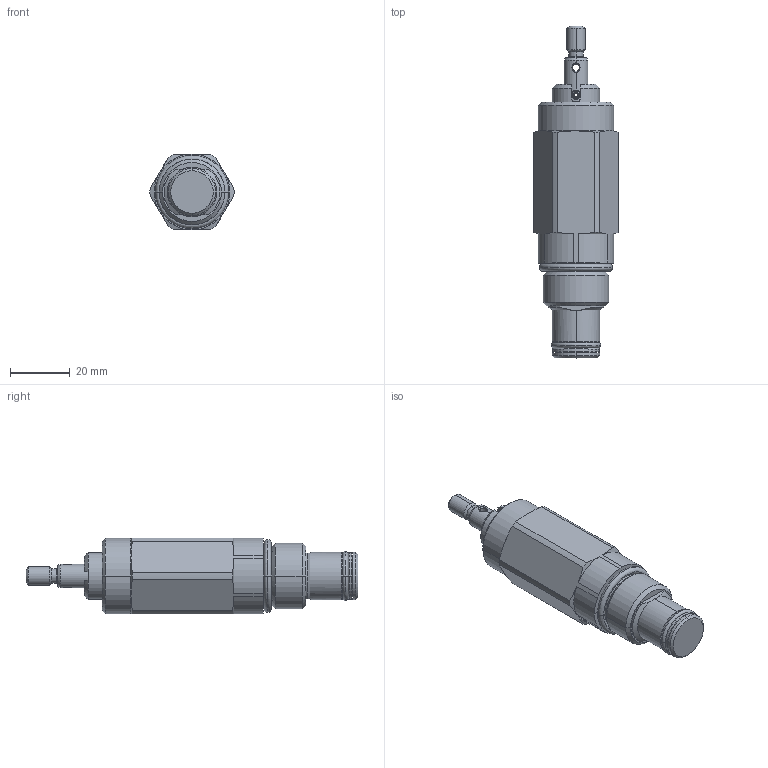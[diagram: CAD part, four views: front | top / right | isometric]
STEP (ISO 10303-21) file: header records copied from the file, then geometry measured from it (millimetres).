
FILE_DESCRIPTION((''),'2;1');
FILE_NAME('5271505_SW0004','2009-02-04T',('jcs'),(''),'PRO/ENGINEER BY PARAMETRIC TECHNOLOGY CORPORATION, 2008010','PRO/ENGINEER BY PARAMETRIC TECHNOLOGY CORPORATION, 2008010','');
FILE_SCHEMA(('CONFIG_CONTROL_DESIGN'));
Length unit declared in the file: inch
Products named in the file (1): 5271505_SW0004
Bounding box: 28.19 x 111.35 x 25.36 mm (x, y, z)
Volume: 38954.3 mm3; surface area: 10032.3 mm2
Topology: 3 solids, 4 shells, 165 faces, 402 edges, 244 vertices
Faces by surface type: cylinder 50, plane 43, cone 40, torus 16, revolution 16
Entity records: 5646 total; most frequent: CARTESIAN_POINT 1735, DIRECTION 824, ORIENTED_EDGE 804, EDGE_CURVE 402, AXIS2_PLACEMENT_3D 333, VERTEX_POINT 244, CIRCLE 184, EDGE_LOOP 172
